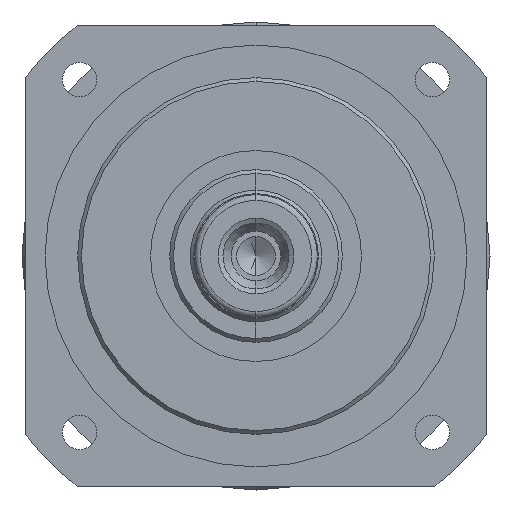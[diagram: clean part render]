
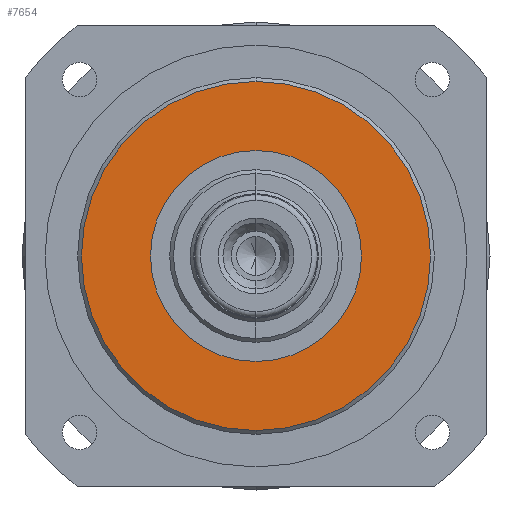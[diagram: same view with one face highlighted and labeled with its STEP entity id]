
A CAD part, left-side view. The second image highlights one B-rep face of the part: STEP entity #7654.
In plain terms, the highlighted planar face has unit normal (-1, 0, 0) as drawn and (0, 0, -1) by its records, which use the part's own axes.
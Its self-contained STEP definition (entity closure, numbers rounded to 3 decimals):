
#138 = EDGE_LOOP ( 'NONE', ( #2716, #2705 ) ) ;
#407 = CARTESIAN_POINT ( 'NONE',  ( 3210.255, 1425.903, -13. ) ) ;
#701 = CARTESIAN_POINT ( 'NONE',  ( 3182.755, 1425.903, -13. ) ) ;
#820 = AXIS2_PLACEMENT_3D ( 'NONE', #701, #5425, #5445 ) ;
#1042 = EDGE_CURVE ( 'NONE', #2931, #1656, #3633, .T. ) ;
#1470 = CARTESIAN_POINT ( 'NONE',  ( 3137.255, 1425.903, -13. ) ) ;
#1606 = CARTESIAN_POINT ( 'NONE',  ( 3182.755, 1425.903, -13. ) ) ;
#1610 = EDGE_CURVE ( 'NONE', #5869, #7176, #6113, .T. ) ;
#1656 = VERTEX_POINT ( 'NONE', #1470 ) ;
#1731 = AXIS2_PLACEMENT_3D ( 'NONE', #4498, #2678, #6245 ) ;
#1982 = CARTESIAN_POINT ( 'NONE',  ( 3155.255, 1425.903, -13. ) ) ;
#2058 = AXIS2_PLACEMENT_3D ( 'NONE', #1606, #3325, #5687 ) ;
#2059 = CARTESIAN_POINT ( 'NONE',  ( 3228.255, 1425.903, -13. ) ) ;
#2133 = PLANE ( 'NONE',  #2058 ) ;
#2275 = FACE_OUTER_BOUND ( 'NONE', #138, .T. ) ;
#2632 = ORIENTED_EDGE ( 'NONE', *, *, #1610, .F. ) ;
#2678 = DIRECTION ( 'NONE',  ( 0., 0., -1. ) ) ;
#2705 = ORIENTED_EDGE ( 'NONE', *, *, #5222, .T. ) ;
#2716 = ORIENTED_EDGE ( 'NONE', *, *, #1042, .T. ) ;
#2771 = CIRCLE ( 'NONE', #1731, 27.5 ) ;
#2931 = VERTEX_POINT ( 'NONE', #2059 ) ;
#3325 = DIRECTION ( 'NONE',  ( 0., 0., -1. ) ) ;
#3505 = CIRCLE ( 'NONE', #820, 45.5 ) ;
#3633 = CIRCLE ( 'NONE', #6958, 45.5 ) ;
#3874 = CARTESIAN_POINT ( 'NONE',  ( 3182.755, 1425.903, -13. ) ) ;
#3895 = DIRECTION ( 'NONE',  ( -1., 0., 0. ) ) ;
#4232 = FACE_BOUND ( 'NONE', #4725, .T. ) ;
#4498 = CARTESIAN_POINT ( 'NONE',  ( 3182.755, 1425.903, -13. ) ) ;
#4725 = EDGE_LOOP ( 'NONE', ( #2632, #7530 ) ) ;
#4910 = EDGE_CURVE ( 'NONE', #7176, #5869, #2771, .T. ) ;
#4988 = DIRECTION ( 'NONE',  ( 0., 0., -1. ) ) ;
#5222 = EDGE_CURVE ( 'NONE', #1656, #2931, #3505, .T. ) ;
#5425 = DIRECTION ( 'NONE',  ( 0., 0., -1. ) ) ;
#5445 = DIRECTION ( 'NONE',  ( -1., 0., 0. ) ) ;
#5567 = DIRECTION ( 'NONE',  ( 0., 0., -1. ) ) ;
#5687 = DIRECTION ( 'NONE',  ( -1., 0., 0. ) ) ;
#5869 = VERTEX_POINT ( 'NONE', #1982 ) ;
#6037 = DIRECTION ( 'NONE',  ( -1., 0., 0. ) ) ;
#6113 = CIRCLE ( 'NONE', #6264, 27.5 ) ;
#6187 = CARTESIAN_POINT ( 'NONE',  ( 3182.755, 1425.903, -13. ) ) ;
#6245 = DIRECTION ( 'NONE',  ( -1., 0., 0. ) ) ;
#6264 = AXIS2_PLACEMENT_3D ( 'NONE', #3874, #4988, #3895 ) ;
#6958 = AXIS2_PLACEMENT_3D ( 'NONE', #6187, #5567, #6037 ) ;
#7176 = VERTEX_POINT ( 'NONE', #407 ) ;
#7530 = ORIENTED_EDGE ( 'NONE', *, *, #4910, .F. ) ;
#7654 = ADVANCED_FACE ( 'NONE', ( #4232, #2275 ), #2133, .T. ) ;
